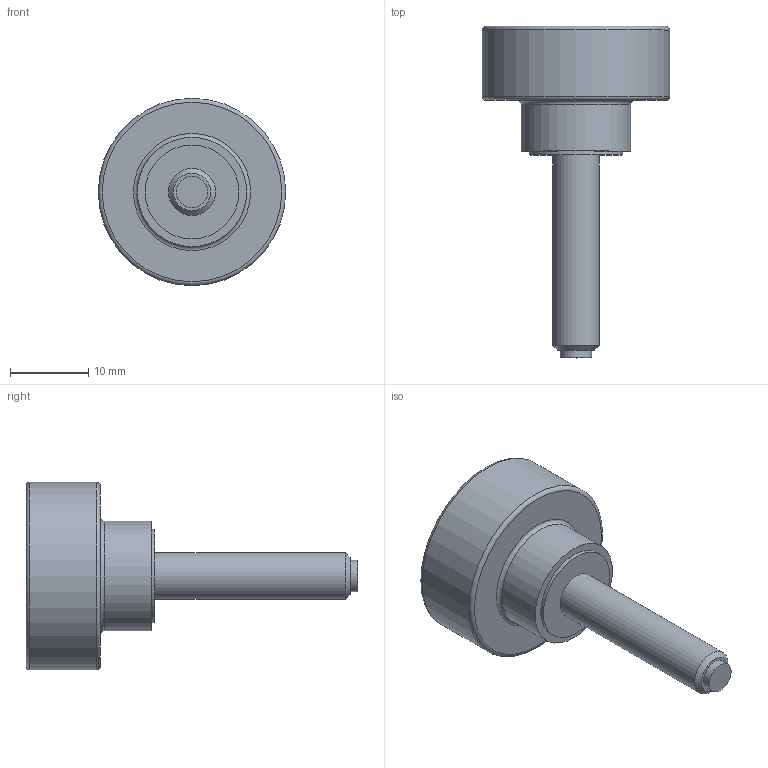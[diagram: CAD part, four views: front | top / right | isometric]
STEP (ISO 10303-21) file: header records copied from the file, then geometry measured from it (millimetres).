
FILE_DESCRIPTION( ( 'STEP AP203' ), '1' );
FILE_NAME( 'C:/Temp/Ganter_Step_05_03_2020/data/2_2/gn_421_10/Hollow knurled knob, with tip GN 421.10-M6-25-MS.stp', '2020-03-05T12:25:33', ( 'License CC BY-ND 4.0' ), ( 'CADENAS' ), ' ', 'PARTsolutions', ' ' );
FILE_SCHEMA( ( 'CONFIG_CONTROL_DESIGN' ) );
Length unit declared in the file: millimetre
Products named in the file (1): _Hollow knurled knob, with tip GN 421.10-M6-25-MS
Bounding box: 24 x 42.5 x 24 mm (x, y, z)
Volume: 4200.1 mm3; surface area: 2808.1 mm2
Topology: 1 solids, 1 shells, 19 faces, 30 edges, 19 vertices
Faces by surface type: plane 8, cylinder 7, torus 3, cone 1
Full cylindrical faces by diameter (mm): 4 x1, 6 x1, 10 x1, 12 x1, 14 x1, 20 x1, 24 x1
Entity records: 418 total; most frequent: DIRECTION 76, CARTESIAN_POINT 56, AXIS2_PLACEMENT_3D 38, EDGE_LOOP 36, ORIENTED_EDGE 36, FACE_OUTER_BOUND 29, ADVANCED_FACE 19, EDGE_CURVE 18
